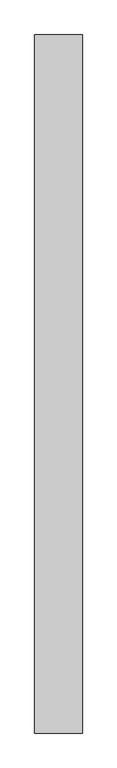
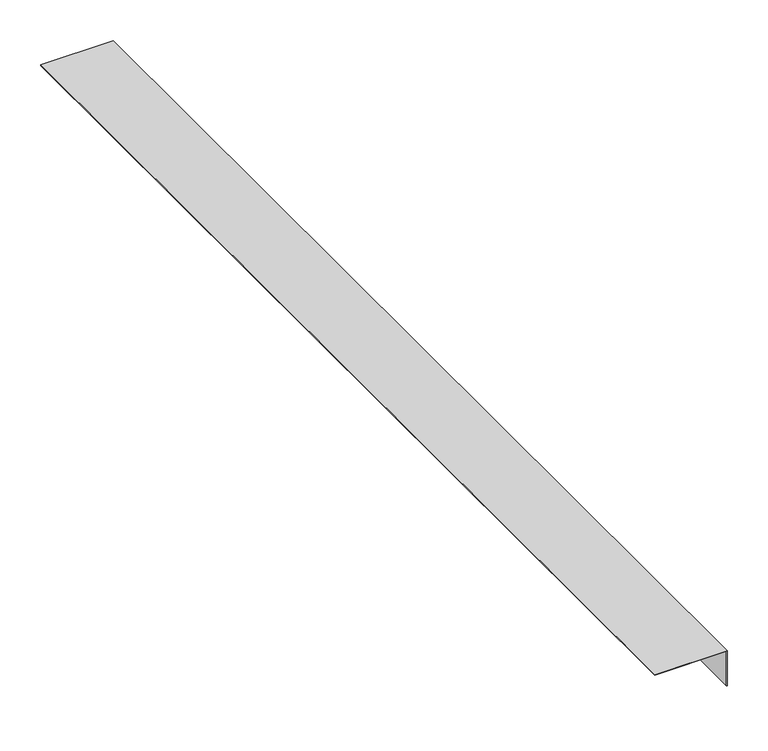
"""IFC4 building model written with IfcOpenShell, lengths in millimetres: proxy geometry, Amphibia Pressure Corner 90° : Amphibia Pressure Corner 90°."""

from ifc_helpers import new_model, si_unit, frame, origin, place, context, project, spatial, polyline, outline, extrude, source, transform, mapped, element, save


def generic_models_e5ace754(model_context):
    return source(origin(), model_context, "Body", "SweptSolid", [
        extrude(outline(polyline([(1.1142542, 2399.3295895), (0.1142542, 2399.3295895), (0.1142542, 2500.671058), (-51.223798, 2500.671058), (-51.223798, 2501.671058), (1.1142542, 2501.671058), (1.1142542, 2399.3295895)])), frame((0.0, -2854.1299805, 0.0), z_axis=(0.0, 1.0, 0.0), x_axis=(0.0, 0.0, 1.0)), (0.0, 0.0, 1.0), 1500.0),
    ])


if __name__ == "__main__":
    model = new_model("IFC4")
    model_context = context("Model", 3, world=origin())
    ifc_project = project(units=[si_unit("LENGTHUNIT", "METRE", prefix="MILLI")], contexts=[model_context])
    site = spatial("IfcSite", under=ifc_project)
    building = spatial("IfcBuilding", under=site)
    placement = place(None, origin())
    generic_models_shape = generic_models_e5ace754(model_context)
    element("IfcBuildingElementProxy", 1, Name="Amphibia Pressure Corner 90° : Amphibia Pressure Corner 90°", ObjectType="Amphibia Pressure Corner 90° : Amphibia Pressure Corner 90°", at=placement, inside=building, context=model_context, shape_type="MappedRepresentation", body=[
        mapped(generic_models_shape, transform((0.0, 0.0, 0.0), x_axis=(1.0, 0.0, 0.0), y_axis=(0.0, 1.0, 0.0), z_axis=(0.0, 0.0, 1.0))),
    ])
    save(model, "model.ifc")
